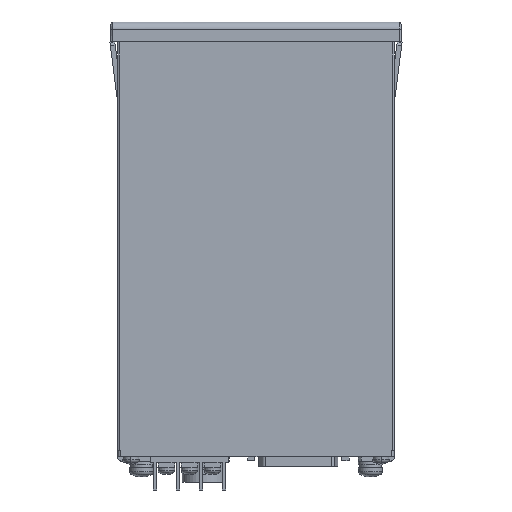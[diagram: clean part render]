
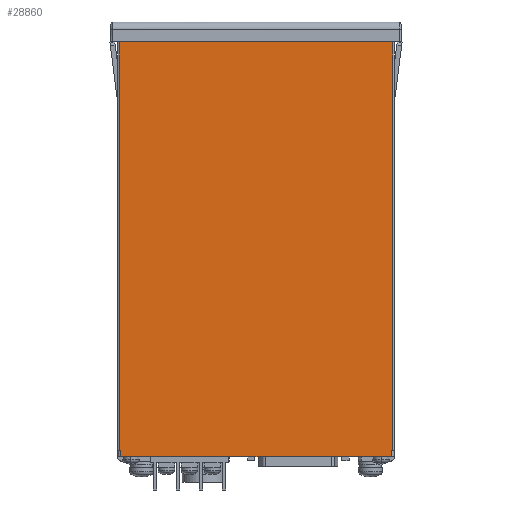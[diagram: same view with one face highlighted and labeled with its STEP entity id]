
A CAD part, front view. The second image highlights one B-rep face of the part: STEP entity #28860.
In plain terms, the highlighted planar face has unit normal (0, -1, 0).
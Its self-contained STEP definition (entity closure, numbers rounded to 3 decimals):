
#2000=CARTESIAN_POINT('',(45.2,21.8,-6.6));
#2010=VERTEX_POINT('',#2000);
#2040=CARTESIAN_POINT('',(-36.419,21.8,-6.6));
#2050=DIRECTION('',(1.,0.,0.));
#2060=VECTOR('',#2050,1.);
#2070=LINE('',#2040,#2060);
#2080=CARTESIAN_POINT('',(-45.2,21.8,-6.6));
#2090=VERTEX_POINT('',#2080);
#2100=EDGE_CURVE('',#2090,#2010,#2070,.T.);
#18490=CARTESIAN_POINT('',(-45.2,21.8,-141.6));
#18500=VERTEX_POINT('',#18490);
#18550=CARTESIAN_POINT('',(-45.2,21.8,
-76.6));
#18560=DIRECTION('',(0.,0.,-1.));
#18570=VECTOR('',#18560,1.);
#18580=LINE('',#18550,#18570);
#18590=EDGE_CURVE('',#2090,#18500,#18580,.T.);
#28310=CARTESIAN_POINT('',(45.2,21.8,
-76.6));
#28320=DIRECTION('',(-0.,1.,0.));
#28330=DIRECTION('',(1.,0.,0.));
#28340=AXIS2_PLACEMENT_3D('',#28310,#28320,#28330);
#28350=PLANE('',#28340);
#28360=CARTESIAN_POINT('',(-43.304,21.8,-141.6));
#28370=DIRECTION('',(1.,0.,0.));
#28380=VECTOR('',#28370,1.);
#28390=LINE('',#28360,#28380);
#28400=CARTESIAN_POINT('',(44.6,21.8,-141.6));
#28410=VERTEX_POINT('',#28400);
#28420=CARTESIAN_POINT('',(45.2,21.8,-141.6));
#28430=VERTEX_POINT('',#28420);
#28440=EDGE_CURVE('',#28410,#28430,#28390,.T.);
#28450=ORIENTED_EDGE('',*,*,#28440,.T.);
#28460=CARTESIAN_POINT('',(44.6,21.8,-141.6))
;
#28470=DIRECTION('',(0.,0.,-1.));
#28480=VECTOR('',#28470,1.);
#28490=LINE('',#28460,#28480);
#28500=CARTESIAN_POINT('',(44.6,21.8,-143.6));
#28510=VERTEX_POINT('',#28500);
#28520=EDGE_CURVE('',#28410,#28510,#28490,.T.);
#28530=ORIENTED_EDGE('',*,*,#28520,.F.);
#28540=CARTESIAN_POINT('',(-43.304,21.8,-143.6));
#28550=DIRECTION('',(-1.,0.,0.));
#28560=VECTOR('',#28550,1.);
#28570=LINE('',#28540,#28560);
#28580=CARTESIAN_POINT('',(-44.6,21.8,-143.6));
#28590=VERTEX_POINT('',#28580);
#28600=EDGE_CURVE('',#28510,#28590,#28570,.T.);
#28610=ORIENTED_EDGE('',*,*,#28600,.F.);
#28620=CARTESIAN_POINT('',(-44.6,21.8,-141.6
));
#28630=DIRECTION('',(0.,0.,-1.));
#28640=VECTOR('',#28630,1.);
#28650=LINE('',#28620,#28640);
#28660=CARTESIAN_POINT('',(-44.6,21.8,-141.6));
#28670=VERTEX_POINT('',#28660);
#28680=EDGE_CURVE('',#28670,#28590,#28650,.T.);
#28690=ORIENTED_EDGE('',*,*,#28680,.T.);
#28700=CARTESIAN_POINT('',(-43.304,21.8,-141.6));
#28710=DIRECTION('',(-1.,0.,0.));
#28720=VECTOR('',#28710,1.);
#28730=LINE('',#28700,#28720);
#28740=EDGE_CURVE('',#28670,#18500,#28730,.T.);
#28750=ORIENTED_EDGE('',*,*,#28740,.F.);
#28760=ORIENTED_EDGE('',*,*,#18590,.T.);
#28770=ORIENTED_EDGE('',*,*,#2100,.F.);
#28780=CARTESIAN_POINT('',(45.2,21.8,
-76.6));
#28790=DIRECTION('',(0.,0.,-1.));
#28800=VECTOR('',#28790,1.);
#28810=LINE('',#28780,#28800);
#28820=EDGE_CURVE('',#2010,#28430,#28810,.T.);
#28830=ORIENTED_EDGE('',*,*,#28820,.F.);
#28840=EDGE_LOOP('',(#28830,#28770,#28760,#28750,#28690,#28610,#28530,
#28450));
#28850=FACE_OUTER_BOUND('',#28840,.T.);
#28860=ADVANCED_FACE('',(#28850),#28350,.F.);
